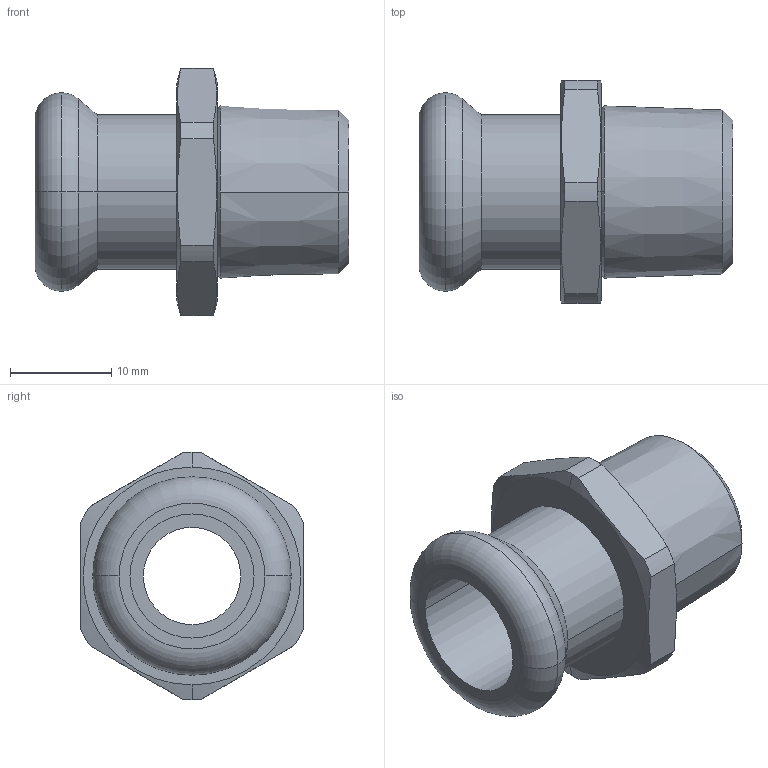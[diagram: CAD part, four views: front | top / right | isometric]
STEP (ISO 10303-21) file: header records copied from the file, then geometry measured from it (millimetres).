
FILE_DESCRIPTION(('CoCreate Modeling STEP Export'),'2;1');
FILE_NAME('C1405 12xR3-8.stp','2014-11-07T14:13:50',(''),(''),'CoCreate Modeling STEP processor for AP214 (Solid Model)','CoCreate Modeling 17.00A 17-Jun-2010 (C) Parametric Technology GmbH','');
FILE_SCHEMA(('AUTOMOTIVE_DESIGN { 1 0 10303 214 1 1 1 1 }'));
Length unit declared in the file: millimetre
Products named in the file (2): C1405_12xR3-8
Assembly tree (1 placements, depth 2):
  C1405_12xR3-8
    C1405_12xR3-8
Bounding box: 31 x 22 x 24.4 mm (x, y, z)
Volume: 4187.3 mm3; surface area: 3550 mm2
Topology: 1 solids, 1 shells, 42 faces, 105 edges, 69 vertices
Faces by surface type: cylinder 14, cone 12, plane 12, torus 4
Entity records: 1633 total; most frequent: CARTESIAN_POINT 712, ORIENTED_EDGE 210, DIRECTION 150, EDGE_CURVE 105, VERTEX_POINT 69, AXIS2_PLACEMENT_3D 59, EDGE_LOOP 48, FACE_OUTER_BOUND 42
